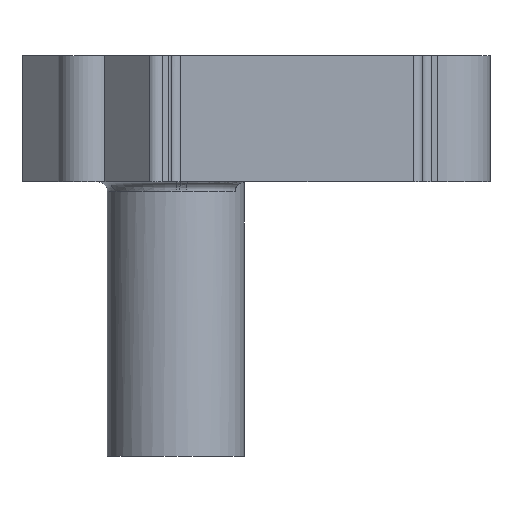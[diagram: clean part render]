
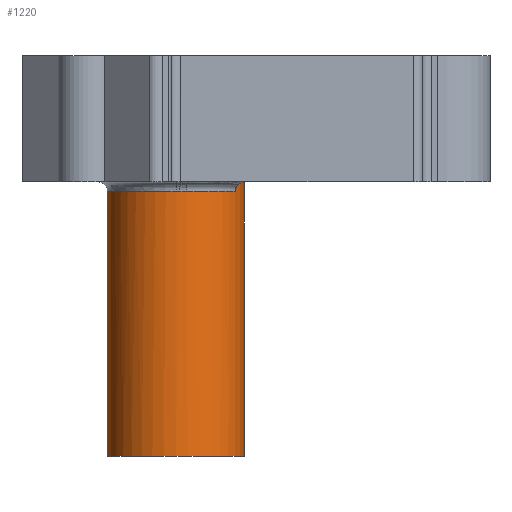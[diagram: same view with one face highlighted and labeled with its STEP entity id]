
A CAD part, front view. The second image highlights one B-rep face of the part: STEP entity #1220.
In plain terms, the highlighted cylindrical face has radius 7.5 mm (diameter 15 mm), a partial arc.
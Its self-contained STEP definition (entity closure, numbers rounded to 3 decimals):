
#69 = CARTESIAN_POINT ( 'NONE',  ( 8.666, -7.487, -0.996 ) ) ;
#99 = AXIS2_PLACEMENT_3D ( 'NONE', #1856, #1415, #284 ) ;
#105 = ORIENTED_EDGE ( 'NONE', *, *, #1601, .T. ) ;
#118 = DIRECTION ( 'NONE',  ( 0., 0., -1. ) ) ;
#188 = CARTESIAN_POINT ( 'NONE',  ( 0.725, 0., -30. ) ) ;
#204 = DIRECTION ( 'NONE',  ( 1., 0., 0. ) ) ;
#221 = VECTOR ( 'NONE', #2883, 1000. ) ;
#237 = CARTESIAN_POINT ( 'NONE',  ( 8.225, 0., 0. ) ) ;
#253 = ORIENTED_EDGE ( 'NONE', *, *, #1991, .T. ) ;
#284 = DIRECTION ( 'NONE',  ( -1., 0., 0. ) ) ;
#349 = CARTESIAN_POINT ( 'NONE',  ( 15.725, 0., 0. ) ) ;
#390 = DIRECTION ( 'NONE',  ( 0., 0., -1. ) ) ;
#417 = CARTESIAN_POINT ( 'NONE',  ( 8.902, -7.473, -0.998 ) ) ;
#422 = EDGE_CURVE ( 'NONE', #649, #2245, #1440, .T. ) ;
#482 = ORIENTED_EDGE ( 'NONE', *, *, #1965, .F. ) ;
#483 = DIRECTION ( 'NONE',  ( 0., 0., -1. ) ) ;
#551 = ORIENTED_EDGE ( 'NONE', *, *, #2615, .T. ) ;
#613 = CARTESIAN_POINT ( 'NONE',  ( 8.225, 0., -1. ) ) ;
#649 = VERTEX_POINT ( 'NONE', #188 ) ;
#701 = VECTOR ( 'NONE', #483, 1000. ) ;
#746 = CARTESIAN_POINT ( 'NONE',  ( 8.282, -7.5, -1. ) ) ;
#766 = CARTESIAN_POINT ( 'NONE',  ( 0.725, 0., -30. ) ) ;
#778 = CARTESIAN_POINT ( 'NONE',  ( 9.372, -7.412, -1. ) ) ;
#783 = VERTEX_POINT ( 'NONE', #1461 ) ;
#789 = EDGE_LOOP ( 'NONE', ( #1130, #482, #2640, #253, #2354, #1986, #105, #1356, #551 ) ) ;
#804 = DIRECTION ( 'NONE',  ( 1., 0., 0. ) ) ;
#879 = FACE_OUTER_BOUND ( 'NONE', #789, .T. ) ;
#890 = EDGE_CURVE ( 'NONE', #1256, #2762, #2584, .T. ) ;
#1130 = ORIENTED_EDGE ( 'NONE', *, *, #422, .F. ) ;
#1146 = DIRECTION ( 'NONE',  ( 0., 0., -1. ) ) ;
#1178 = LINE ( 'NONE', #2128, #701 ) ;
#1183 = CARTESIAN_POINT ( 'NONE',  ( 8.282, -7.5, -1. ) ) ;
#1220 = ADVANCED_FACE ( 'NONE', ( #879 ), #1796, .T. ) ;
#1242 = AXIS2_PLACEMENT_3D ( 'NONE', #237, #1146, #2747 ) ;
#1256 = VERTEX_POINT ( 'NONE', #2744 ) ;
#1356 = ORIENTED_EDGE ( 'NONE', *, *, #890, .T. ) ;
#1378 = CIRCLE ( 'NONE', #99, 7.5 ) ;
#1413 = AXIS2_PLACEMENT_3D ( 'NONE', #2422, #390, #2899 ) ;
#1415 = DIRECTION ( 'NONE',  ( 0., 0., -1. ) ) ;
#1440 = LINE ( 'NONE', #766, #1839 ) ;
#1461 = CARTESIAN_POINT ( 'NONE',  ( 14.72, -3.75, -1. ) ) ;
#1523 = B_SPLINE_CURVE_WITH_KNOTS ( 'NONE', 3,
 ( #2454, #2242, #417, #2900 ),
 .UNSPECIFIED., .F., .F.,
 ( 4, 4 ),
 ( 0., 0.001 ),
 .UNSPECIFIED. ) ;
#1534 = CARTESIAN_POINT ( 'NONE',  ( 0.725, 0., -1. ) ) ;
#1567 = CARTESIAN_POINT ( 'NONE',  ( 8.225, 0., -30. ) ) ;
#1601 = EDGE_CURVE ( 'NONE', #2735, #1256, #1523, .T. ) ;
#1689 = CARTESIAN_POINT ( 'NONE',  ( 8.538, -7.495, -0.996 ) ) ;
#1716 = CIRCLE ( 'NONE', #1898, 7.5 ) ;
#1774 = LINE ( 'NONE', #2915, #221 ) ;
#1796 = CYLINDRICAL_SURFACE ( 'NONE', #1956, 7.5 ) ;
#1839 = VECTOR ( 'NONE', #2597, 1000. ) ;
#1856 = CARTESIAN_POINT ( 'NONE',  ( 8.225, 0., -30. ) ) ;
#1898 = AXIS2_PLACEMENT_3D ( 'NONE', #613, #118, #804 ) ;
#1956 = AXIS2_PLACEMENT_3D ( 'NONE', #1567, #2253, #204 ) ;
#1965 = EDGE_CURVE ( 'NONE', #2182, #649, #1378, .T. ) ;
#1986 = ORIENTED_EDGE ( 'NONE', *, *, #2552, .T. ) ;
#1991 = EDGE_CURVE ( 'NONE', #2157, #2325, #2528, .T. ) ;
#2128 = CARTESIAN_POINT ( 'NONE',  ( 14.72, -3.75, 0. ) ) ;
#2157 = VERTEX_POINT ( 'NONE', #349 ) ;
#2182 = VERTEX_POINT ( 'NONE', #2363 ) ;
#2242 = CARTESIAN_POINT ( 'NONE',  ( 9.138, -7.448, -1. ) ) ;
#2245 = VERTEX_POINT ( 'NONE', #1534 ) ;
#2253 = DIRECTION ( 'NONE',  ( 0., 0., 1. ) ) ;
#2325 = VERTEX_POINT ( 'NONE', #2506 ) ;
#2354 = ORIENTED_EDGE ( 'NONE', *, *, #2767, .T. ) ;
#2363 = CARTESIAN_POINT ( 'NONE',  ( 15.725, 0., -30. ) ) ;
#2422 = CARTESIAN_POINT ( 'NONE',  ( 8.225, 0., -1. ) ) ;
#2454 = CARTESIAN_POINT ( 'NONE',  ( 9.372, -7.412, -1. ) ) ;
#2506 = CARTESIAN_POINT ( 'NONE',  ( 14.72, -3.75, 0. ) ) ;
#2528 = CIRCLE ( 'NONE', #1242, 7.5 ) ;
#2552 = EDGE_CURVE ( 'NONE', #783, #2735, #2802, .T. ) ;
#2565 = CARTESIAN_POINT ( 'NONE',  ( 8.41, -7.499, -1. ) ) ;
#2584 = B_SPLINE_CURVE_WITH_KNOTS ( 'NONE', 3,
 ( #69, #1689, #2565, #1183 ),
 .UNSPECIFIED., .F., .F.,
 ( 4, 4 ),
 ( 0., 0. ),
 .UNSPECIFIED. ) ;
#2595 = EDGE_CURVE ( 'NONE', #2182, #2157, #1774, .T. ) ;
#2597 = DIRECTION ( 'NONE',  ( 0., 0., 1. ) ) ;
#2615 = EDGE_CURVE ( 'NONE', #2762, #2245, #1716, .T. ) ;
#2640 = ORIENTED_EDGE ( 'NONE', *, *, #2595, .T. ) ;
#2735 = VERTEX_POINT ( 'NONE', #778 ) ;
#2744 = CARTESIAN_POINT ( 'NONE',  ( 8.666, -7.487, -0.996 ) ) ;
#2747 = DIRECTION ( 'NONE',  ( -1., 0., 0. ) ) ;
#2762 = VERTEX_POINT ( 'NONE', #746 ) ;
#2767 = EDGE_CURVE ( 'NONE', #2325, #783, #1178, .T. ) ;
#2802 = CIRCLE ( 'NONE', #1413, 7.5 ) ;
#2883 = DIRECTION ( 'NONE',  ( 0., 0., 1. ) ) ;
#2899 = DIRECTION ( 'NONE',  ( 1., 0., 0. ) ) ;
#2900 = CARTESIAN_POINT ( 'NONE',  ( 8.666, -7.487, -0.996 ) ) ;
#2915 = CARTESIAN_POINT ( 'NONE',  ( 15.725, 0., -30. ) ) ;
